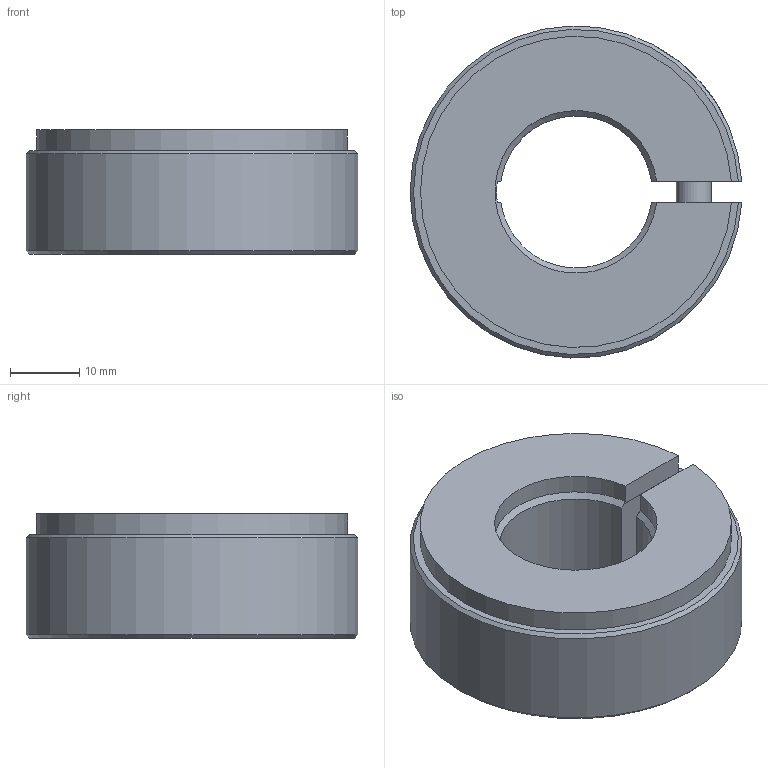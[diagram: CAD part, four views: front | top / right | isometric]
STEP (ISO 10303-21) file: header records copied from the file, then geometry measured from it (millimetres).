
FILE_DESCRIPTION( ( 'STEP AP203' ), '1' );
FILE_NAME( 'C:/Temp/Ganter_Step_05_03_2020/data/3_2/gn7062_3/Semi-split Stainless Steel-Set collar GN 7062.3-48-B22-NI.stp', '2020-03-13T05:40:25', ( 'License CC BY-ND 4.0' ), ( 'CADENAS' ), ' ', 'PARTsolutions', ' ' );
FILE_SCHEMA( ( 'CONFIG_CONTROL_DESIGN' ) );
Length unit declared in the file: millimetre
Products named in the file (1): _Semi-split Stainless Steel-Set collar GN 7062.3-48-B22-NI
Bounding box: 47.95 x 47.98 x 18 mm (x, y, z)
Volume: 23524.5 mm3; surface area: 7707.2 mm2
Topology: 1 solids, 1 shells, 36 faces, 89 edges, 59 vertices
Faces by surface type: plane 20, cylinder 10, cone 5, torus 1
Full cylindrical faces by diameter (mm): 5 x1, 5.4 x1, 8.5 x1, 9 x1
Entity records: 1182 total; most frequent: CARTESIAN_POINT 297, DIRECTION 170, ORIENTED_EDGE 168, EDGE_CURVE 84, AXIS2_PLACEMENT_3D 64, VERTEX_POINT 59, EDGE_LOOP 47, LINE 42
